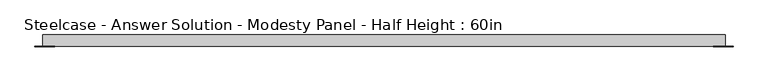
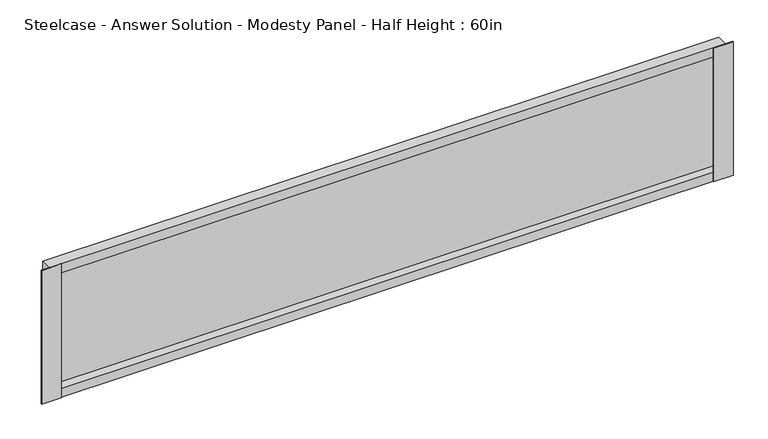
"""IFC4 building model written with IfcOpenShell, lengths in millimetres: furniture geometry, Steelcase - Answer Solution - Modesty Panel - Half Height : 60in."""

import ifcopenshell
import ifcopenshell.guid

model = None  # the IFC model being written
_history = None  # IfcOwnerHistory: only IFC2X3 demands one
_inside = {}  # id of a spatial element -> (the spatial element, [elements in it])
_under = {}  # id of a project, library or spatial element -> (it, [spatial elements below it])
_declared = {}  # id of a project -> (the project, [libraries it declares])
_typed = {}  # id of a type object -> (the type object, [elements of that type])
_made_of = {}  # id of a material, layer set ... -> (it, [elements and type objects made of it])


def new_model(schema):
    """Start an empty IFC model of exactly this schema.

    Asked for "IFC4X3", IfcOpenShell would pick the latest addendum, in which some entities
    have other attributes; the version numbers below select the first issue.
    IFC2X3 requires an IfcOwnerHistory on every rooted entity: one is made here for all.
    """
    global model, _history
    if schema == "IFC4X3":
        model = ifcopenshell.file(schema_version=(4, 3, 0, 0))
    else:
        model = ifcopenshell.file(schema=schema)
    _inside.clear()
    _under.clear()
    _declared.clear()
    _typed.clear()
    _made_of.clear()
    _history = None
    if model.schema == "IFC2X3":
        org = make("IfcOrganization", Name="unknown")
        user = make(
            "IfcPersonAndOrganization",
            ThePerson=make("IfcPerson", FamilyName="unknown"),
            TheOrganization=org,
        )
        app = make(
            "IfcApplication",
            ApplicationDeveloper=org,
            Version="unknown",
            ApplicationFullName="unknown",
            ApplicationIdentifier="unknown",
        )
        _history = make(
            "IfcOwnerHistory",
            OwningUser=user,
            OwningApplication=app,
            ChangeAction="ADDED",
            CreationDate=0,
        )
    return model


def make(cls, **values):
    """One entity of the class cls with the attributes given. An attribute that is None is left unset."""
    return model.create_entity(
        cls, **{name: value for name, value in values.items() if value is not None}
    )


def rooted(cls, **values):
    """An entity with a GlobalId (a new one), such as an element, a storey or a relation."""
    return make(cls, GlobalId=ifcopenshell.guid.new(), OwnerHistory=_history, **values)


def si_unit(unit_type, name, prefix=None):
    """IfcSIUnit, for example si_unit("LENGTHUNIT", "METRE", prefix="MILLI")."""
    return make("IfcSIUnit", UnitType=unit_type, Prefix=prefix, Name=name)


def assignment(units):
    """IfcUnitAssignment: the units of a project."""
    return None if units is None else make("IfcUnitAssignment", Units=units)


def point(xyz):
    """IfcCartesianPoint."""
    return None if xyz is None else make("IfcCartesianPoint", Coordinates=xyz)


def direction(xyz):
    """IfcDirection."""
    return None if xyz is None else make("IfcDirection", DirectionRatios=xyz)


def frame(location, z_axis=None, x_axis=None):
    """IfcAxis2Placement3D, a coordinate frame: its origin and axes. An axis left out is left unset."""
    return make(
        "IfcAxis2Placement3D",
        Location=point(location),
        Axis=direction(z_axis),
        RefDirection=direction(x_axis),
    )


def origin():
    """The frame at (0, 0, 0) with its axes left unset."""
    return frame((0.0, 0.0, 0.0))


def place(relative_to, where):
    """IfcLocalPlacement: puts the frame where relative to a parent placement (None: the world)."""
    return make(
        "IfcLocalPlacement", PlacementRelTo=relative_to, RelativePlacement=where
    )


def context(
    kind, dimensions, precision=None, world=None, true_north=None, identifier=None
):
    """IfcGeometricRepresentationContext, for example the 3D "Model" context."""
    return make(
        "IfcGeometricRepresentationContext",
        ContextIdentifier=identifier,
        ContextType=kind,
        CoordinateSpaceDimension=dimensions,
        Precision=precision,
        WorldCoordinateSystem=world,
        TrueNorth=true_north,
    )


def project(units=None, contexts=None):
    """IfcProject with its units and contexts."""
    return rooted(
        "IfcProject",
        Name="project",
        RepresentationContexts=contexts,
        UnitsInContext=assignment(units),
    )


def spatial(cls, under=None, at=None, **own):
    """A site, building, storey or space (cls), placed at a placement, below another one or the project."""
    s = rooted(cls, ObjectPlacement=at, **own)
    if under is not None:
        _under.setdefault(under.id(), (under, []))[1].append(s)
    return s


def polyline(points):
    """IfcPolyline through the points."""
    return make("IfcPolyline", Points=[point(p) for p in points])


def outline(outer, holes=None, kind="AREA"):
    """IfcArbitraryClosedProfileDef: a profile drawn as a closed curve; with holes, ...WithVoids."""
    if holes is None:
        return make("IfcArbitraryClosedProfileDef", ProfileType=kind, OuterCurve=outer)
    return make(
        "IfcArbitraryProfileDefWithVoids",
        ProfileType=kind,
        OuterCurve=outer,
        InnerCurves=holes,
    )


def extrude(swept, where, along, depth):
    """IfcExtrudedAreaSolid: the profile swept, set in the frame where, extruded along a direction by depth."""
    return make(
        "IfcExtrudedAreaSolid",
        SweptArea=swept,
        Position=where,
        ExtrudedDirection=direction(along),
        Depth=depth,
    )


def faces_of(points, faces, orient=None, outer=None):
    """IfcFace entities. A face is a list of loops; a loop is a list of indices into points, from 0.

    orient and outer hold one flag for each loop. By default every Orientation is true, the
    first loop of a face is its IfcFaceOuterBound and the others are IfcFaceBound.
    """
    made = []
    for i, loops in enumerate(faces):
        bounds = []
        for j, loop in enumerate(loops):
            is_outer = j == 0 if outer is None else outer[i][j]
            bounds.append(
                make(
                    "IfcFaceOuterBound" if is_outer else "IfcFaceBound",
                    Bound=make("IfcPolyLoop", Polygon=[points[k] for k in loop]),
                    Orientation=True if orient is None else orient[i][j],
                )
            )
        made.append(make("IfcFace", Bounds=bounds))
    return made


def faceted_brep(points, faces, orient=None, outer=None, voids=None):
    """IfcFacetedBrep: a solid bounded by flat faces; with voids (closed shells), ...WithVoids."""
    shared = [point(p) for p in points]
    hull = make("IfcClosedShell", CfsFaces=faces_of(shared, faces, orient, outer))
    if voids is None:
        return make("IfcFacetedBrep", Outer=hull)
    return make(
        "IfcFacetedBrepWithVoids",
        Outer=hull,
        Voids=[
            make(cls, CfsFaces=faces_of(shared, fs, o, b)) for cls, fs, o, b in voids
        ],
    )


def shape(context_of_items, identifier, shape_type, items):
    """IfcShapeRepresentation: the items that make up one representation, for example the "Body"."""
    return make(
        "IfcShapeRepresentation",
        ContextOfItems=context_of_items,
        RepresentationIdentifier=identifier,
        RepresentationType=shape_type,
        Items=items,
    )


def source(mapping_origin, context_of_items, identifier, shape_type, items):
    """IfcRepresentationMap: a shape defined once, which mapped items show again and again."""
    return make(
        "IfcRepresentationMap",
        MappingOrigin=mapping_origin,
        MappedRepresentation=shape(context_of_items, identifier, shape_type, items),
    )


def transform(
    local_origin,
    x_axis=None,
    y_axis=None,
    z_axis=None,
    scale=None,
    scale2=None,
    scale3=None,
    uniform=True,
):
    """IfcCartesianTransformationOperator3D, or its non-uniform kind. x_axis, y_axis, z_axis: its Axis1, 2, 3."""
    if uniform:
        return make(
            "IfcCartesianTransformationOperator3D",
            Axis1=direction(x_axis),
            Axis2=direction(y_axis),
            LocalOrigin=point(local_origin),
            Scale=scale,
            Axis3=direction(z_axis),
        )
    return make(
        "IfcCartesianTransformationOperator3DnonUniform",
        Axis1=direction(x_axis),
        Axis2=direction(y_axis),
        LocalOrigin=point(local_origin),
        Scale=scale,
        Axis3=direction(z_axis),
        Scale2=scale2,
        Scale3=scale3,
    )


def mapped(mapping_source, mapping_target):
    """IfcMappedItem: shows the shape of a source again, moved by a transform."""
    return make(
        "IfcMappedItem", MappingSource=mapping_source, MappingTarget=mapping_target
    )


def made_of(thing, what):
    """Note that an element or type object is made of a material, layer set ...; save() writes the relation."""
    if what is not None:
        _made_of.setdefault(what.id(), (what, []))[1].append(thing)
    return thing


def element(
    cls,
    number,
    at=None,
    inside=None,
    cuts=None,
    type_object=None,
    material=None,
    context=None,
    identifier="Body",
    shape_type=None,
    held_by="IfcProductDefinitionShape",
    body=None,
    shapes=None,
    **own,
):
    """One element of the class cls, such as IfcWall. Its Tag is "e" and its number.

    at: its placement. inside: the storey or other place that contains it. cuts: it is an
    opening in that element (IfcRelVoidsElement). A single representation is given by context,
    identifier, shape_type and body (its items); several are given by shapes. held_by: the class
    of the entity that holds the representations. save() writes the other relations.
    """
    e = rooted(cls, Tag="e%d" % number, ObjectPlacement=at, **own)
    if body is not None:
        shapes = [shape(context, identifier, shape_type, body)]
    if shapes is not None:
        e.Representation = make(held_by, Representations=shapes)
    if inside is not None:
        _inside.setdefault(inside.id(), (inside, []))[1].append(e)
    if cuts is not None:
        rooted(
            "IfcRelVoidsElement", RelatingBuildingElement=cuts, RelatedOpeningElement=e
        )
    if type_object is not None:
        _typed.setdefault(type_object.id(), (type_object, []))[1].append(e)
    return made_of(e, material)


def aggregate(whole, parts):
    """IfcRelAggregates: a whole, such as a stair, and the parts it consists of."""
    return rooted("IfcRelAggregates", RelatingObject=whole, RelatedObjects=parts)


def save(model, path):
    """Write the relations noted so far, then the file.

    IfcRelAggregates (storeys below a building ...), IfcRelContainedInSpatialStructure (elements
    in a storey), IfcRelDefinesByType, IfcRelAssociatesMaterial and IfcRelDeclares: one each for
    every whole, place, type object, material and project.
    """
    for whole, parts in _under.values():
        aggregate(whole, parts)
    for where, things in _inside.values():
        rooted(
            "IfcRelContainedInSpatialStructure",
            RelatedElements=things,
            RelatingStructure=where,
        )
    for kind, things in _typed.values():
        rooted("IfcRelDefinesByType", RelatedObjects=things, RelatingType=kind)
    for what, things in _made_of.values():
        rooted("IfcRelAssociatesMaterial", RelatedObjects=things, RelatingMaterial=what)
    for by, libraries in _declared.values():
        rooted("IfcRelDeclares", RelatingContext=by, RelatedDefinitions=libraries)
    model.write(path)


def steelcase_answer_solution_modesty_panel_half_height_60in_16be81f0(model_context):
    return source(origin(), model_context, "Body", "SolidModel", [
        extrude(outline(polyline([(2067.5400478, -14.2668826), (2067.5400478, -15.0593624), (2023.1248254, -15.0593624), (2023.1248254, -14.2668826), (2067.5400478, -14.2668826)])), frame((0.0, 0.0, 17.653), z_axis=(0.0, 0.0, 1.0), x_axis=(1.0, 0.0, 0.0)), (0.0, 0.0, 1.0), 317.5),
        extrude(outline(polyline([(556.9673392, -14.2668826), (556.9673392, -15.0593624), (512.5520826, -15.0593624), (512.5520826, -14.2668826), (556.9673392, -14.2668826)])), frame((0.0, 0.0, 17.653), z_axis=(0.0, 0.0, 1.0), x_axis=(1.0, 0.0, 0.0)), (0.0, 0.0, 1.0), 317.5),
        faceted_brep([(530.0780827, 10.9045177, 17.653), (530.0780827, -14.2668826, 17.653), (530.0780827, -14.2668826, 335.153), (530.0780827, 10.9045177, 335.153), (2050.0140827, -14.2668826, 17.653), (2050.0140827, 10.9045177, 17.653), (2050.0140827, 10.9045177, 335.153), (2050.0140827, -14.2668826, 335.153), (2049.2216165, 4.7831174, 39.243), (530.8705628, 4.7831174, 39.243), (530.8705628, -14.2668826, 39.243), (2049.2216165, -14.2668826, 39.243), (530.8705628, -14.2668826, 313.563), (2049.2216165, -14.2668826, 313.563), (530.8705628, 4.7831174, 313.563), (2049.2216165, 4.7831174, 313.563)], [[[0, 1, 2, 3]], [[4, 5, 6, 7]], [[8, 9, 10, 11]], [[0, 3, 6, 5]], [[4, 1, 0, 5]], [[2, 1, 4, 7], [10, 12, 13, 11]], [[3, 2, 7, 6]], [[14, 15, 13, 12]], [[9, 8, 15, 14]], [[12, 10, 9, 14]], [[11, 13, 15, 8]]]),
    ])


if __name__ == "__main__":
    model = new_model("IFC4")
    model_context = context("Model", 3, world=origin())
    ifc_project = project(units=[si_unit("LENGTHUNIT", "METRE", prefix="MILLI")], contexts=[model_context])
    site = spatial("IfcSite", under=ifc_project)
    building = spatial("IfcBuilding", under=site)
    placement = place(None, origin())
    steelcase_answer_solution_modesty_panel_half_height_60in_shape = steelcase_answer_solution_modesty_panel_half_height_60in_16be81f0(model_context)
    element("IfcFurniture", 1, ObjectType="Steelcase - Answer Solution - Modesty Panel - Half Height : 60in", at=placement, inside=building, context=model_context, shape_type="MappedRepresentation", body=[
        mapped(steelcase_answer_solution_modesty_panel_half_height_60in_shape, transform((0.0, 0.0, 0.0), x_axis=(1.0, 0.0, 0.0), y_axis=(0.0, 1.0, 0.0), z_axis=(0.0, 0.0, 1.0))),
    ])
    save(model, "model.ifc")
